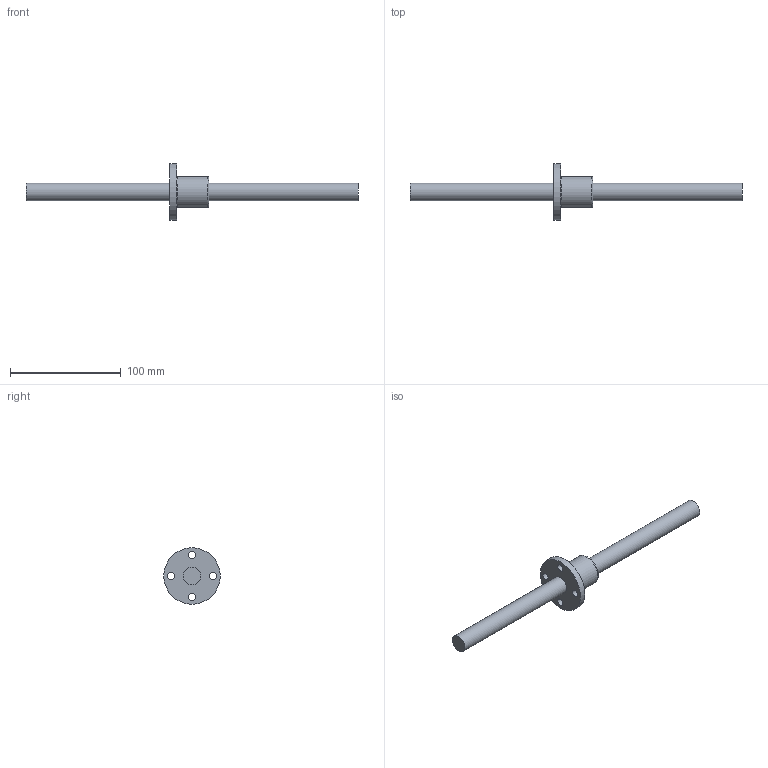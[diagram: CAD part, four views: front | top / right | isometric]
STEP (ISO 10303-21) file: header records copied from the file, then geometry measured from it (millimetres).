
FILE_DESCRIPTION((''),'2;1');
FILE_NAME('D:\製品 (図面)\カタログ用3D\ネジ関連\STEP形式\TMF\TMF16.stp','2010-06-02T14:58:34',('Tsuchiya'),(''),'Autodesk Inventor 10','Autodesk Inventor 10','');
FILE_SCHEMA(('AUTOMOTIVE_DESIGN { 1 0 10303 214 1 1 1 1 }'));
Length unit declared in the file: millimetre
Products named in the file (3): TMF16; TMF161; TMF162
Assembly tree (2 placements, depth 2):
  TMF16
    TMF161
    TMF162
Bounding box: 300 x 51 x 51 mm (x, y, z)
Volume: 82560.2 mm3; surface area: 24603.8 mm2
Topology: 2 solids, 2 shells, 15 faces, 32 edges, 22 vertices
Faces by surface type: cylinder 8, plane 5, torus 1, bspline 1
Full cylindrical faces by diameter (mm): 6.6 x4, 16 x2, 28 x1, 51 x1
Entity records: 470 total; most frequent: CARTESIAN_POINT 100, DIRECTION 74, AXIS2_PLACEMENT_3D 37, ORIENTED_EDGE 36, EDGE_LOOP 36, FACE_BOUND 21, VERTEX_POINT 18, CIRCLE 18
